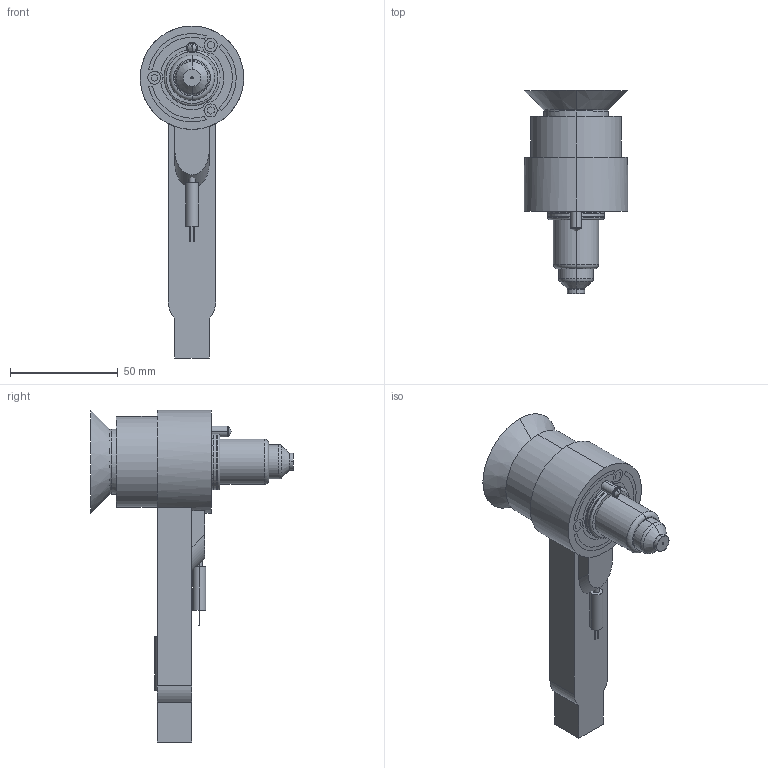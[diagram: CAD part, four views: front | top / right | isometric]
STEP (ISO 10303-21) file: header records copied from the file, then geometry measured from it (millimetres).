
FILE_DESCRIPTION((''),'2;1');
FILE_NAME('PX040001-2Z_ASM','2013-10-29T',('benoit'),(''),'PRO/ENGINEER BY PARAMETRIC TECHNOLOGY CORPORATION, 2007450','PRO/ENGINEER BY PARAMETRIC TECHNOLOGY CORPORATION, 2007450','');
FILE_SCHEMA(('CONFIG_CONTROL_DESIGN'));
Length unit declared in the file: millimetre
Products named in the file (15): PX010021; PX040022; PX040020_CLIENT; BFX020021; CP010021; PX-CIRCLIPS; GOUPILLE-5-16; RA2Z-P; T2Z-32; BF03219; CAPOT-03219; 32X1_5E; VIS_CHCM4-12; PX040001-2Z-POCHE; PX040001-2Z_ASM
Assembly tree (16 placements, depth 2):
  PX040001-2Z_ASM
    PX010021
    PX040022
    PX040020_CLIENT
    BFX020021
    CP010021
    PX-CIRCLIPS
    GOUPILLE-5-16
    RA2Z-P
    T2Z-32
    BF03219
    CAPOT-03219
    32X1_5E
    VIS_CHCM4-12  x3
    PX040001-2Z-POCHE
Bounding box: 48 x 94.14 x 154 mm (x, y, z)
Volume: 199619.3 mm3; surface area: 64719.6 mm2
Topology: 16 solids, 16 shells, 556 faces, 1393 edges, 870 vertices
Faces by surface type: cylinder 204, plane 164, cone 100, torus 48, bspline 30, sphere 10
Entity records: 23298 total; most frequent: CARTESIAN_POINT 10720, DIRECTION 2643, ORIENTED_EDGE 2564, EDGE_CURVE 1282, AXIS2_PLACEMENT_3D 1083, VERTEX_POINT 812, EDGE_LOOP 566, CIRCLE 564
